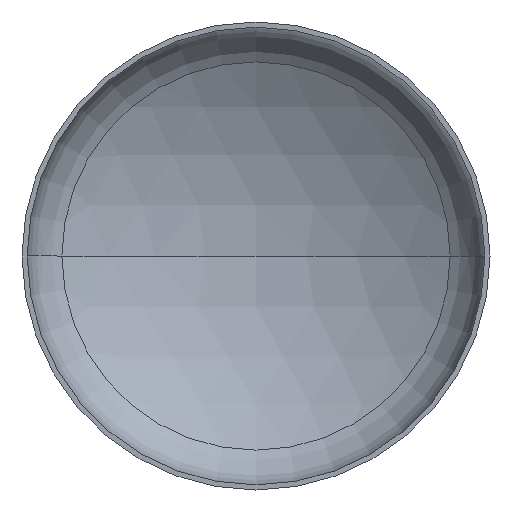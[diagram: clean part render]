
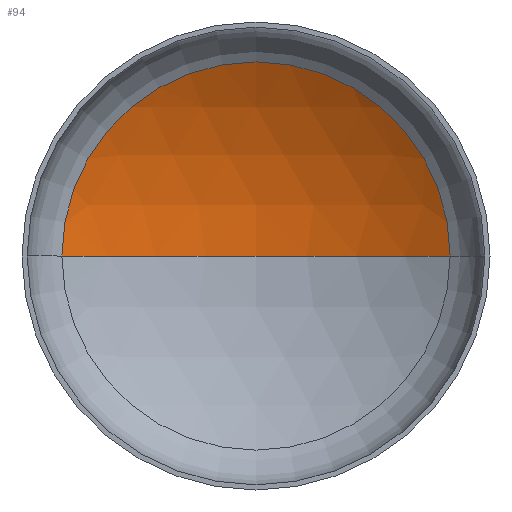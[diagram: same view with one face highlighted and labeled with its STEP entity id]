
A CAD part, front view. The second image highlights one B-rep face of the part: STEP entity #94.
In plain terms, the highlighted spherical face has radius 3040 mm.
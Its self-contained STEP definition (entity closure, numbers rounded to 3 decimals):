
#7 = CARTESIAN_POINT ( 'NONE',  ( 0., -1969.166, 0. ) ) ;
#19 = EDGE_LOOP ( 'NONE', ( #135, #128, #112 ) ) ;
#22 = CARTESIAN_POINT ( 'NONE',  ( 1576.342, 630.208, 0. ) ) ;
#36 = AXIS2_PLACEMENT_3D ( 'NONE', #325, #178, #195 ) ;
#42 = AXIS2_PLACEMENT_3D ( 'NONE', #7, #320, #388 ) ;
#44 = AXIS2_PLACEMENT_3D ( 'NONE', #343, #310, #222 ) ;
#45 = AXIS2_PLACEMENT_3D ( 'NONE', #198, #199, #229 ) ;
#94 = ADVANCED_FACE ( 'NONE', ( #350 ), #400, .F. ) ;
#96 = EDGE_CURVE ( 'NONE', #123, #103, #339, .T. ) ;
#97 = EDGE_CURVE ( 'NONE', #104, #123, #152, .T. ) ;
#101 = EDGE_CURVE ( 'NONE', #104, #103, #279, .T. ) ;
#103 = VERTEX_POINT ( 'NONE', #214 ) ;
#104 = VERTEX_POINT ( 'NONE', #257 ) ;
#112 = ORIENTED_EDGE ( 'NONE', *, *, #96, .T. ) ;
#123 = VERTEX_POINT ( 'NONE', #22 ) ;
#128 = ORIENTED_EDGE ( 'NONE', *, *, #97, .T. ) ;
#135 = ORIENTED_EDGE ( 'NONE', *, *, #101, .F. ) ;
#152 = CIRCLE ( 'NONE', #42, 3040. ) ;
#178 = DIRECTION ( 'NONE',  ( 0., 0., 1. ) ) ;
#195 = DIRECTION ( 'NONE',  ( 1., 0., 0. ) ) ;
#198 = CARTESIAN_POINT ( 'NONE',  ( 0., 630.208, 0. ) ) ;
#199 = DIRECTION ( 'NONE',  ( 0., -1., 0. ) ) ;
#214 = CARTESIAN_POINT ( 'NONE',  ( -1576.342, 630.208, 0. ) ) ;
#222 = DIRECTION ( 'NONE',  ( -1., 0., 0. ) ) ;
#229 = DIRECTION ( 'NONE',  ( 1., 0., 0. ) ) ;
#257 = CARTESIAN_POINT ( 'NONE',  ( 0., 1070.834, 0. ) ) ;
#279 = CIRCLE ( 'NONE', #36, 3040. ) ;
#310 = DIRECTION ( 'NONE',  ( 0., 0., -1. ) ) ;
#320 = DIRECTION ( 'NONE',  ( 0., 0., -1. ) ) ;
#325 = CARTESIAN_POINT ( 'NONE',  ( 0., -1969.166, 0. ) ) ;
#339 = CIRCLE ( 'NONE', #45, 1576.342 ) ;
#343 = CARTESIAN_POINT ( 'NONE',  ( 0., -1969.166, 0. ) ) ;
#350 = FACE_OUTER_BOUND ( 'NONE', #19, .T. ) ;
#388 = DIRECTION ( 'NONE',  ( -1., 0., 0. ) ) ;
#400 = SPHERICAL_SURFACE ( 'NONE', #44, 3040. ) ;
